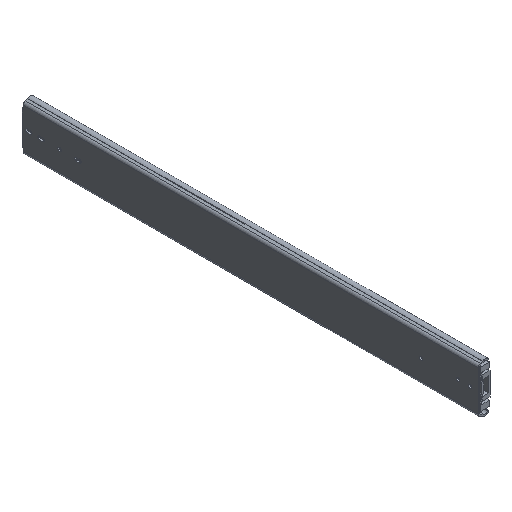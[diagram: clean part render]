
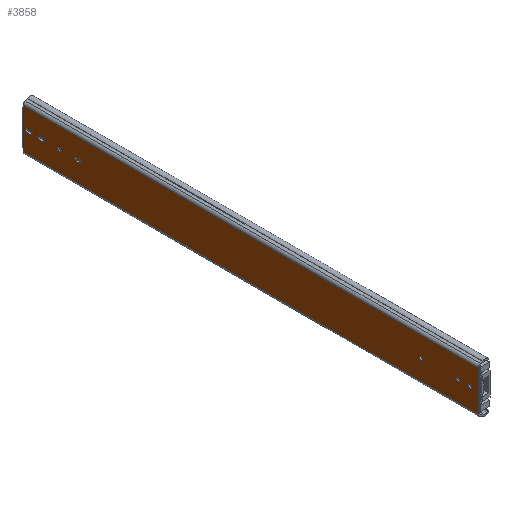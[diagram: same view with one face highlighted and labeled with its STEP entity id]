
A CAD part, isometric view. The second image highlights one B-rep face of the part: STEP entity #3858.
In plain terms, the highlighted planar face has unit normal (-1, 0, 0).
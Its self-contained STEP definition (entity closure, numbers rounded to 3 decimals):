
#343=LINE('',#6565,#726);
#350=LINE('',#6594,#733);
#351=LINE('',#6599,#734);
#366=LINE('',#6646,#749);
#373=LINE('',#6671,#756);
#383=LINE('',#6700,#766);
#386=LINE('',#6722,#769);
#390=LINE('',#6734,#773);
#394=LINE('',#6750,#777);
#401=LINE('',#6769,#784);
#404=LINE('',#6778,#787);
#410=LINE('',#6809,#793);
#416=LINE('',#6825,#799);
#417=LINE('',#6827,#800);
#726=VECTOR('',#5431,1000.);
#733=VECTOR('',#5460,1000.);
#734=VECTOR('',#5465,1000.);
#749=VECTOR('',#5510,1000.);
#756=VECTOR('',#5535,1000.);
#766=VECTOR('',#5567,1000.);
#769=VECTOR('',#5590,1000.);
#773=VECTOR('',#5602,1000.);
#777=VECTOR('',#5620,1000.);
#784=VECTOR('',#5635,1000.);
#787=VECTOR('',#5646,1000.);
#793=VECTOR('',#5672,1000.);
#799=VECTOR('',#5692,1000.);
#800=VECTOR('',#5695,1000.);
#907=PLANE('',#4605);
#1961=ORIENTED_EDGE('',*,*,#2562,.F.);
#1962=ORIENTED_EDGE('',*,*,#2521,.T.);
#1963=ORIENTED_EDGE('',*,*,#2525,.F.);
#1964=ORIENTED_EDGE('',*,*,#2560,.T.);
#1965=ORIENTED_EDGE('',*,*,#2539,.T.);
#1966=ORIENTED_EDGE('',*,*,#2537,.T.);
#1967=ORIENTED_EDGE('',*,*,#2534,.T.);
#1968=ORIENTED_EDGE('',*,*,#2531,.T.);
#1969=ORIENTED_EDGE('',*,*,#2514,.F.);
#1970=ORIENTED_EDGE('',*,*,#2511,.F.);
#1971=ORIENTED_EDGE('',*,*,#2520,.F.);
#1972=ORIENTED_EDGE('',*,*,#2517,.F.);
#1973=ORIENTED_EDGE('',*,*,#2507,.F.);
#1974=ORIENTED_EDGE('',*,*,#2505,.F.);
#1975=ORIENTED_EDGE('',*,*,#2503,.F.);
#1976=ORIENTED_EDGE('',*,*,#2546,.F.);
#1977=ORIENTED_EDGE('',*,*,#2563,.T.);
#1978=ORIENTED_EDGE('',*,*,#2487,.F.);
#1979=ORIENTED_EDGE('',*,*,#2552,.T.);
#1980=ORIENTED_EDGE('',*,*,#2435,.T.);
#1981=ORIENTED_EDGE('',*,*,#2502,.T.);
#1982=ORIENTED_EDGE('',*,*,#2449,.F.);
#1983=ORIENTED_EDGE('',*,*,#2474,.F.);
#1984=ORIENTED_EDGE('',*,*,#2451,.T.);
#2435=EDGE_CURVE('',#2857,#2856,#343,.T.);
#2449=EDGE_CURVE('',#2867,#2866,#350,.T.);
#2451=EDGE_CURVE('',#2870,#2869,#351,.T.);
#2474=EDGE_CURVE('',#2870,#2867,#366,.T.);
#2487=EDGE_CURVE('',#2895,#2896,#373,.T.);
#2502=EDGE_CURVE('',#2856,#2866,#383,.T.);
#2503=EDGE_CURVE('',#2904,#2904,#3089,.T.);
#2505=EDGE_CURVE('',#2906,#2906,#3091,.T.);
#2507=EDGE_CURVE('',#2908,#2908,#3093,.T.);
#2511=EDGE_CURVE('',#2912,#2913,#386,.T.);
#2514=EDGE_CURVE('',#2913,#2915,#3096,.T.);
#2517=EDGE_CURVE('',#2915,#2917,#390,.T.);
#2520=EDGE_CURVE('',#2917,#2912,#3098,.T.);
#2521=EDGE_CURVE('',#2918,#2919,#3099,.T.);
#2525=EDGE_CURVE('',#2922,#2919,#394,.T.);
#2531=EDGE_CURVE('',#2925,#2927,#3102,.T.);
#2534=EDGE_CURVE('',#2929,#2925,#401,.T.);
#2537=EDGE_CURVE('',#2931,#2929,#3104,.T.);
#2539=EDGE_CURVE('',#2927,#2931,#404,.T.);
#2546=EDGE_CURVE('',#2938,#2938,#3107,.T.);
#2552=EDGE_CURVE('',#2895,#2857,#410,.T.);
#2560=EDGE_CURVE('',#2922,#2945,#3110,.T.);
#2562=EDGE_CURVE('',#2918,#2945,#416,.T.);
#2563=EDGE_CURVE('',#2869,#2896,#417,.T.);
#2856=VERTEX_POINT('',#6564);
#2857=VERTEX_POINT('',#6566);
#2866=VERTEX_POINT('',#6591);
#2867=VERTEX_POINT('',#6593);
#2869=VERTEX_POINT('',#6598);
#2870=VERTEX_POINT('',#6600);
#2895=VERTEX_POINT('',#6670);
#2896=VERTEX_POINT('',#6672);
#2904=VERTEX_POINT('',#6703);
#2906=VERTEX_POINT('',#6708);
#2908=VERTEX_POINT('',#6713);
#2912=VERTEX_POINT('',#6721);
#2913=VERTEX_POINT('',#6723);
#2915=VERTEX_POINT('',#6729);
#2917=VERTEX_POINT('',#6735);
#2918=VERTEX_POINT('',#6742);
#2919=VERTEX_POINT('',#6743);
#2922=VERTEX_POINT('',#6751);
#2925=VERTEX_POINT('',#6758);
#2927=VERTEX_POINT('',#6762);
#2929=VERTEX_POINT('',#6767);
#2931=VERTEX_POINT('',#6773);
#2938=VERTEX_POINT('',#6794);
#2945=VERTEX_POINT('',#6822);
#3089=CIRCLE('',#4559,2.6);
#3091=CIRCLE('',#4562,2.6);
#3093=CIRCLE('',#4565,2.6);
#3096=CIRCLE('',#4570,2.6);
#3098=CIRCLE('',#4574,2.6);
#3099=CIRCLE('',#4576,2.6);
#3102=CIRCLE('',#4581,2.619);
#3104=CIRCLE('',#4585,2.619);
#3107=CIRCLE('',#4591,2.6);
#3110=CIRCLE('',#4602,2.6);
#3338=EDGE_LOOP('',(#1961,#1962,#1963,#1964));
#3339=EDGE_LOOP('',(#1965,#1966,#1967,#1968));
#3340=EDGE_LOOP('',(#1969,#1970,#1971,#1972));
#3341=EDGE_LOOP('',(#1973));
#3342=EDGE_LOOP('',(#1974));
#3343=EDGE_LOOP('',(#1975));
#3344=EDGE_LOOP('',(#1976));
#3345=EDGE_LOOP('',(#1977,#1978,#1979,#1980,#1981,#1982,#1983,#1984));
#3579=FACE_BOUND('',#3338,.T.);
#3580=FACE_BOUND('',#3339,.T.);
#3581=FACE_BOUND('',#3340,.T.);
#3582=FACE_BOUND('',#3341,.T.);
#3583=FACE_BOUND('',#3342,.T.);
#3584=FACE_BOUND('',#3343,.T.);
#3585=FACE_BOUND('',#3344,.T.);
#3586=FACE_BOUND('',#3345,.T.);
#3858=ADVANCED_FACE('',(#3579,#3580,#3581,#3582,#3583,#3584,#3585,#3586),
#907,.F.);
#4559=AXIS2_PLACEMENT_3D('',#6702,#5570,#5571);
#4562=AXIS2_PLACEMENT_3D('',#6707,#5576,#5577);
#4565=AXIS2_PLACEMENT_3D('',#6712,#5582,#5583);
#4570=AXIS2_PLACEMENT_3D('',#6728,#5596,#5597);
#4574=AXIS2_PLACEMENT_3D('',#6739,#5608,#5609);
#4576=AXIS2_PLACEMENT_3D('',#6741,#5612,#5613);
#4581=AXIS2_PLACEMENT_3D('',#6763,#5629,#5630);
#4585=AXIS2_PLACEMENT_3D('',#6775,#5641,#5642);
#4591=AXIS2_PLACEMENT_3D('',#6793,#5659,#5660);
#4602=AXIS2_PLACEMENT_3D('',#6821,#5687,#5688);
#4605=AXIS2_PLACEMENT_3D('',#6829,#5697,#5698);
#5431=DIRECTION('',(0.,-1.,0.));
#5460=DIRECTION('',(0.,1.,0.));
#5465=DIRECTION('',(0.,1.,0.));
#5510=DIRECTION('',(0.,0.,-1.));
#5535=DIRECTION('',(0.,-1.,0.));
#5567=DIRECTION('',(0.,0.,-1.));
#5570=DIRECTION('',(-1.,0.,0.));
#5571=DIRECTION('',(0.,1.,0.));
#5576=DIRECTION('',(-1.,0.,0.));
#5577=DIRECTION('',(0.,1.,0.));
#5582=DIRECTION('',(-1.,0.,0.));
#5583=DIRECTION('',(0.,1.,0.));
#5590=DIRECTION('',(0.,-1.,0.));
#5596=DIRECTION('',(-1.,0.,0.));
#5597=DIRECTION('',(0.,1.,0.));
#5602=DIRECTION('',(0.,1.,0.));
#5608=DIRECTION('',(-1.,0.,0.));
#5609=DIRECTION('',(0.,-1.,0.));
#5612=DIRECTION('',(1.,0.,0.));
#5613=DIRECTION('',(0.,0.,-1.));
#5620=DIRECTION('',(0.,1.,0.));
#5629=DIRECTION('',(1.,0.,0.));
#5630=DIRECTION('',(0.,0.,-1.));
#5635=DIRECTION('',(0.,1.,0.));
#5641=DIRECTION('',(1.,0.,0.));
#5642=DIRECTION('',(0.,0.,-1.));
#5646=DIRECTION('',(0.,-1.,0.));
#5659=DIRECTION('',(-1.,0.,0.));
#5660=DIRECTION('',(0.,1.,0.));
#5672=DIRECTION('',(0.,0.,-1.));
#5687=DIRECTION('',(1.,0.,0.));
#5688=DIRECTION('',(0.,0.,-1.));
#5692=DIRECTION('',(0.,-1.,0.));
#5695=DIRECTION('',(0.,0.,-1.));
#5697=DIRECTION('',(1.,0.,0.));
#5698=DIRECTION('',(0.,0.,-1.));
#6564=CARTESIAN_POINT('',(0.,707.2,-26.15));
#6565=CARTESIAN_POINT('',(0.,707.7,-26.15));
#6566=CARTESIAN_POINT('',(0.,707.7,-26.15));
#6591=CARTESIAN_POINT('',(0.,707.2,-31.142));
#6593=CARTESIAN_POINT('',(0.,0.,-31.142));
#6594=CARTESIAN_POINT('',(0.,0.,-31.142));
#6598=CARTESIAN_POINT('',(0.,707.2,31.132));
#6599=CARTESIAN_POINT('',(0.,0.,31.132));
#6600=CARTESIAN_POINT('',(0.,0.,31.132));
#6646=CARTESIAN_POINT('',(0.,0.,31.132));
#6670=CARTESIAN_POINT('',(0.,707.7,26.15));
#6671=CARTESIAN_POINT('',(0.,707.7,26.15));
#6672=CARTESIAN_POINT('',(0.,707.2,26.15));
#6700=CARTESIAN_POINT('',(0.,707.2,31.132));
#6702=CARTESIAN_POINT('',(0.,31.75,-0.006));
#6703=CARTESIAN_POINT('',(0.,34.35,-0.006));
#6707=CARTESIAN_POINT('',(0.,88.9,-0.006));
#6708=CARTESIAN_POINT('',(0.,91.5,-0.006));
#6712=CARTESIAN_POINT('',(0.,650.9,-0.006));
#6713=CARTESIAN_POINT('',(0.,653.5,-0.006));
#6721=CARTESIAN_POINT('',(0.,624.6,-2.605));
#6722=CARTESIAN_POINT('',(0.,624.6,-2.605));
#6723=CARTESIAN_POINT('',(0.,620.,-2.605));
#6728=CARTESIAN_POINT('',(0.,620.,-0.005));
#6729=CARTESIAN_POINT('',(0.,620.,2.595));
#6734=CARTESIAN_POINT('',(0.,624.6,2.595));
#6735=CARTESIAN_POINT('',(0.,624.6,2.595));
#6739=CARTESIAN_POINT('',(0.,624.6,-0.005));
#6741=CARTESIAN_POINT('',(0.,700.8,-0.006));
#6742=CARTESIAN_POINT('',(0.,700.8,-2.606));
#6743=CARTESIAN_POINT('',(0.,700.8,2.594));
#6750=CARTESIAN_POINT('',(0.,0.,2.594));
#6751=CARTESIAN_POINT('',(0.,696.2,2.594));
#6758=CARTESIAN_POINT('',(0.,682.099,-2.606));
#6762=CARTESIAN_POINT('',(0.,682.099,2.594));
#6763=CARTESIAN_POINT('',(0.,681.781,-0.006));
#6767=CARTESIAN_POINT('',(0.,676.901,-2.606));
#6769=CARTESIAN_POINT('',(0.,0.,-2.606));
#6773=CARTESIAN_POINT('',(0.,676.901,2.594));
#6775=CARTESIAN_POINT('',(0.,677.219,-0.006));
#6778=CARTESIAN_POINT('',(0.,0.,2.594));
#6793=CARTESIAN_POINT('',(0.,12.7,-0.006));
#6794=CARTESIAN_POINT('',(0.,15.3,-0.006));
#6809=CARTESIAN_POINT('',(0.,707.7,26.15));
#6821=CARTESIAN_POINT('',(0.,696.2,-0.006));
#6822=CARTESIAN_POINT('',(0.,696.2,-2.606));
#6825=CARTESIAN_POINT('',(0.,0.,-2.606));
#6827=CARTESIAN_POINT('',(0.,707.2,31.132));
#6829=CARTESIAN_POINT('',(0.,0.,31.132));
